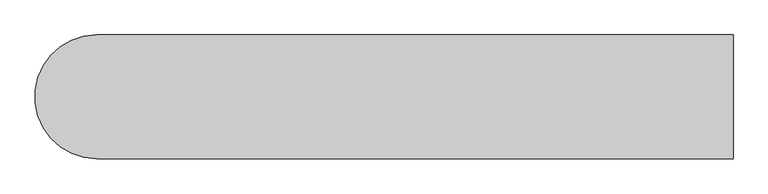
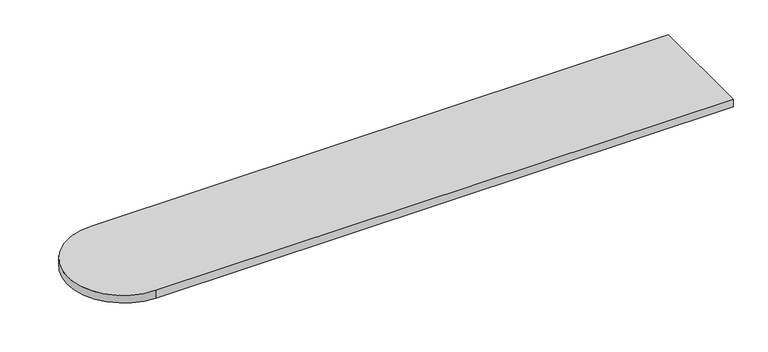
"""IFC4 building model written with IfcOpenShell, lengths in millimetres: furniture geometry."""

from ifc_helpers import new_model, si_unit, point, frame, frame_2d, origin, place, context, project, spatial, polyline, circle_curve, trimmed, segment, composite_curve, outline, extrude, source, transform, mapped, element, save


def furniture_d2704b84(model_context):
    return source(origin(), model_context, "Body", "SweptSolid", [
        extrude(outline(composite_curve([segment(polyline([(215.9, -365.125), (-1612.9, -365.125)]), True, "CONTINUOUS"), segment(trimmed(circle_curve(frame_2d((-1612.9, -187.325)), 177.8), [point((-1612.9, -365.125))], [point((-1612.9, -9.525))], False, "CARTESIAN"), True, "CONTINUOUS"), segment(polyline([(-1612.9, -9.525), (215.9, -9.525), (215.9, -365.125)]), True, "CONTINUOUS")], self_intersect=False)), frame((0.0, 0.0, 1203.325), z_axis=(0.0, 0.0, 1.0), x_axis=(1.0, 0.0, 0.0)), (0.0, 0.0, 1.0), 25.4),
    ])


if __name__ == "__main__":
    model = new_model("IFC4")
    model_context = context("Model", 3, world=origin())
    ifc_project = project(units=[si_unit("LENGTHUNIT", "METRE", prefix="MILLI")], contexts=[model_context])
    site = spatial("IfcSite", under=ifc_project)
    building = spatial("IfcBuilding", under=site)
    placement = place(None, origin())
    furniture_shape = furniture_d2704b84(model_context)
    element("IfcFurniture", 1, ObjectType="HermanMiller_ActionOffice_A2820_Sq-EdgeTransactionSurfaceRoundRectEnd : 14\"D x 79\"W", at=placement, inside=building, context=model_context, shape_type="MappedRepresentation", body=[
        mapped(furniture_shape, transform((0.0, 0.0, 0.0), x_axis=(1.0, 0.0, 0.0), y_axis=(0.0, 1.0, 0.0), z_axis=(0.0, 0.0, 1.0))),
    ])
    save(model, "model.ifc")
